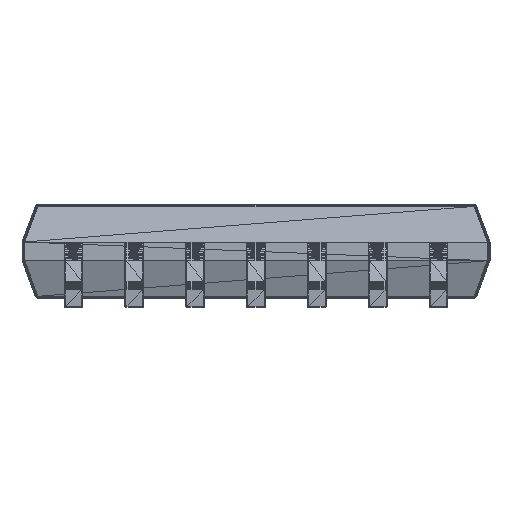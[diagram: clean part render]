
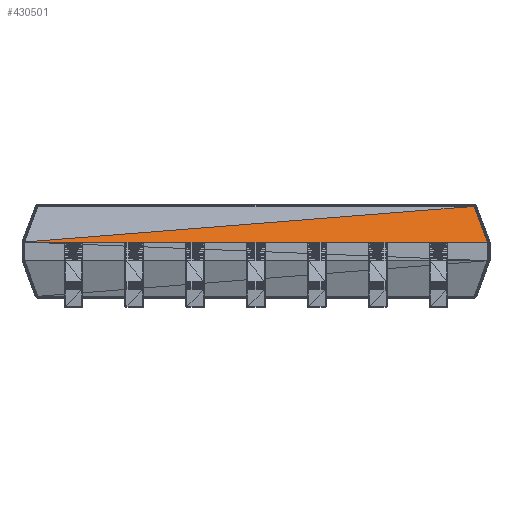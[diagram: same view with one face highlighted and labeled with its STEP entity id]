
A CAD part, left-side view. The second image highlights one B-rep face of the part: STEP entity #430501.
In plain terms, the highlighted planar face has unit normal (-0.936, 0, 0.351).
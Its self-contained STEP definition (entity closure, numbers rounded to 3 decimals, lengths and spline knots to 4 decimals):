
#28707=DIRECTION('',(0.0,1.0,0.0));
#28708=VECTOR('',#28707,1000.0);
#421332=CARTESIAN_POINT('',(-2.2,-2.47,0.63));
#421333=VERTEX_POINT('',#421332);
#421334=CARTESIAN_POINT('',(-2.2,2.47,0.63));
#421335=VERTEX_POINT('',#421334);
#421390=CARTESIAN_POINT('',(-2.0573,-2.3292,1.0105));
#421391=VERTEX_POINT('',#421390);
#430076=LINE('',#421332,#28708);
#430077=EDGE_CURVE('',#421333,#421335,#430076,.T.);
#430246=DIRECTION('',(0.332,0.327,0.885));
#430271=DIRECTION('',(-0.332,-0.327,-0.885));
#430477=VECTOR('',#430271,1000.0);
#430478=LINE('',#421390,#430477);
#430479=EDGE_CURVE('',#421391,#421333,#430478,.T.);
#430489=DIRECTION('',(-0.03,0.996,-0.079));
#430490=VECTOR('',#430489,1000.0);
#430491=LINE('',#421390,#430490);
#430492=EDGE_CURVE('',#421391,#421335,#430491,.T.);
#430493=ORIENTED_EDGE('',*,*,#430479,.F.);
#430494=ORIENTED_EDGE('',*,*,#430492,.T.);
#430495=ORIENTED_EDGE('',*,*,#430077,.F.);
#430496=DIRECTION('',(-0.936,0.0,0.351));
#430497=AXIS2_PLACEMENT_3D('',#421332,#430496,#430246);
#430498=PLANE('',#430497);
#430499=EDGE_LOOP('',(#430493,#430494,#430495));
#430500=FACE_BOUND('',#430499,.T.);
#430501=ADVANCED_FACE('',(#430500),#430498,.T.);
